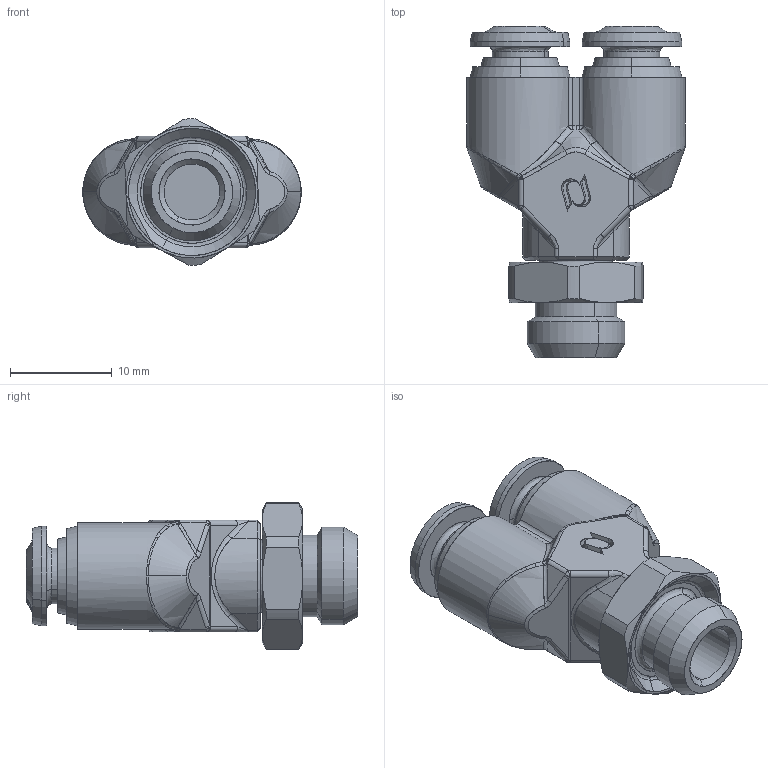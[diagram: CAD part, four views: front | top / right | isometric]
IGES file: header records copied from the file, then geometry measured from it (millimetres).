
Start section: SolidWorks IGES file using analytic representation for surfaces
Global section: file name: K:\Disegni Esecutivi\SERIE 50000\ASSIEMI_50000\50326\IGES e STEP\5032600003A.IGS; native system: SolidWorks 2016; preprocessor: SolidWorks 2016; author: cad08; date: 191120.100231; units: millimetre
Bounding box: 21.5 x 32.6 x 14.4 mm (x, y, z)
Surface area: 2583.4 mm2 (no closed solid volume)
Topology: 0 solids, 0 shells, 453 faces, 4373 edges, 4357 vertices
Faces by surface type: bspline 296, revolution 157
